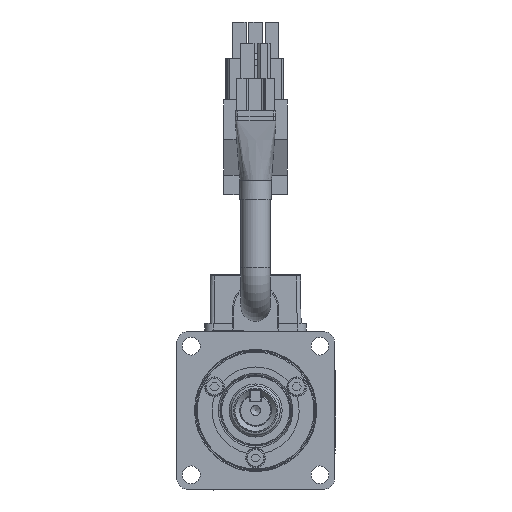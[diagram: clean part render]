
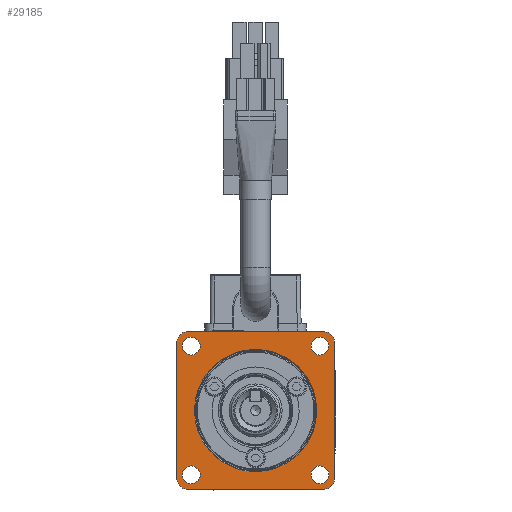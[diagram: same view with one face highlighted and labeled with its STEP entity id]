
A CAD part, left-side view. The second image highlights one B-rep face of the part: STEP entity #29185.
In plain terms, the highlighted planar face has unit normal (-1, 0, 0) as drawn and (0, -1, 0) by its records, which use the part's own axes.
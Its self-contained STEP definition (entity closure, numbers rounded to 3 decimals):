
#1846=CIRCLE('',#31225,2.25);
#1851=CIRCLE('',#31232,2.25);
#1856=CIRCLE('',#31239,2.25);
#1861=CIRCLE('',#31246,2.25);
#1874=CIRCLE('',#31285,3.);
#1875=CIRCLE('',#31287,3.);
#1876=CIRCLE('',#31289,3.);
#1877=CIRCLE('',#31291,3.);
#1878=CIRCLE('',#31293,15.45);
#3416=ORIENTED_EDGE('',*,*,#11169,.T.);
#3417=ORIENTED_EDGE('',*,*,#11167,.F.);
#3418=ORIENTED_EDGE('',*,*,#11144,.T.);
#3419=ORIENTED_EDGE('',*,*,#11166,.F.);
#3420=ORIENTED_EDGE('',*,*,#11153,.T.);
#3421=ORIENTED_EDGE('',*,*,#11165,.F.);
#3422=ORIENTED_EDGE('',*,*,#11162,.F.);
#3423=ORIENTED_EDGE('',*,*,#11168,.F.);
#3424=ORIENTED_EDGE('',*,*,#11123,.T.);
#3425=ORIENTED_EDGE('',*,*,#11103,.F.);
#3426=ORIENTED_EDGE('',*,*,#11089,.F.);
#3427=ORIENTED_EDGE('',*,*,#11096,.F.);
#3428=ORIENTED_EDGE('',*,*,#11110,.F.);
#11089=EDGE_CURVE('',#15083,#15083,#1846,.F.);
#11096=EDGE_CURVE('',#15089,#15089,#1851,.F.);
#11103=EDGE_CURVE('',#15095,#15095,#1856,.F.);
#11110=EDGE_CURVE('',#15101,#15101,#1861,.F.);
#11123=EDGE_CURVE('',#15108,#15107,#17741,.T.);
#11144=EDGE_CURVE('',#15122,#15121,#17754,.T.);
#11153=EDGE_CURVE('',#15124,#15123,#17763,.T.);
#11162=EDGE_CURVE('',#15125,#15126,#17772,.T.);
#11165=EDGE_CURVE('',#15126,#15123,#1874,.F.);
#11166=EDGE_CURVE('',#15124,#15121,#1875,.F.);
#11167=EDGE_CURVE('',#15122,#15107,#1876,.F.);
#11168=EDGE_CURVE('',#15108,#15125,#1877,.F.);
#11169=EDGE_CURVE('',#15127,#15127,#1878,.F.);
#15083=VERTEX_POINT('',#44218);
#15089=VERTEX_POINT('',#44233);
#15095=VERTEX_POINT('',#44248);
#15101=VERTEX_POINT('',#44263);
#15107=VERTEX_POINT('',#44286);
#15108=VERTEX_POINT('',#44288);
#15121=VERTEX_POINT('',#44326);
#15122=VERTEX_POINT('',#44328);
#15123=VERTEX_POINT('',#44343);
#15124=VERTEX_POINT('',#44345);
#15125=VERTEX_POINT('',#44361);
#15126=VERTEX_POINT('',#44363);
#15127=VERTEX_POINT('',#44378);
#17741=LINE('',#44287,#20601);
#17754=LINE('',#44327,#20614);
#17763=LINE('',#44344,#20623);
#17772=LINE('',#44362,#20632);
#20601=VECTOR('',#34470,1000.);
#20614=VECTOR('',#34509,1000.);
#20623=VECTOR('',#34530,1000.);
#20632=VECTOR('',#34553,1000.);
#23637=EDGE_LOOP('',(#3416));
#23638=EDGE_LOOP('',(#3417,#3418,#3419,#3420,#3421,#3422,#3423,#3424));
#23639=EDGE_LOOP('',(#3425));
#23640=EDGE_LOOP('',(#3426));
#23641=EDGE_LOOP('',(#3427));
#23642=EDGE_LOOP('',(#3428));
#25903=FACE_BOUND('',#23637,.T.);
#25904=FACE_BOUND('',#23638,.T.);
#25905=FACE_BOUND('',#23639,.T.);
#25906=FACE_BOUND('',#23640,.T.);
#25907=FACE_BOUND('',#23641,.T.);
#25908=FACE_BOUND('',#23642,.T.);
#27963=PLANE('',#31292);
#29185=ADVANCED_FACE('',(#25903,#25904,#25905,#25906,#25907,#25908),#27963,
 .T.);
#31225=AXIS2_PLACEMENT_3D('',#44217,#34394,#34395);
#31232=AXIS2_PLACEMENT_3D('',#44232,#34410,#34411);
#31239=AXIS2_PLACEMENT_3D('',#44247,#34426,#34427);
#31246=AXIS2_PLACEMENT_3D('',#44262,#34442,#34443);
#31285=AXIS2_PLACEMENT_3D('',#44369,#34562,#34563);
#31287=AXIS2_PLACEMENT_3D('',#44371,#34566,#34567);
#31289=AXIS2_PLACEMENT_3D('',#44373,#34570,#34571);
#31291=AXIS2_PLACEMENT_3D('',#44375,#34574,#34575);
#31292=AXIS2_PLACEMENT_3D('',#44376,#34576,#34577);
#31293=AXIS2_PLACEMENT_3D('',#44377,#34578,#34579);
#34394=DIRECTION('',(0.,1.,0.));
#34395=DIRECTION('',(0.,0.,1.));
#34410=DIRECTION('',(0.,1.,0.));
#34411=DIRECTION('',(0.,0.,1.));
#34426=DIRECTION('',(0.,1.,0.));
#34427=DIRECTION('',(0.,0.,1.));
#34442=DIRECTION('',(0.,1.,0.));
#34443=DIRECTION('',(0.,0.,1.));
#34470=DIRECTION('',(0.,0.,1.));
#34509=DIRECTION('',(-1.,0.,0.));
#34530=DIRECTION('',(0.,0.,-1.));
#34553=DIRECTION('',(-1.,0.,0.));
#34562=DIRECTION('',(0.,-1.,0.));
#34563=DIRECTION('',(0.,0.,-1.));
#34566=DIRECTION('',(0.,-1.,0.));
#34567=DIRECTION('',(0.,0.,-1.));
#34570=DIRECTION('',(0.,-1.,0.));
#34571=DIRECTION('',(0.,0.,-1.));
#34574=DIRECTION('',(0.,-1.,0.));
#34575=DIRECTION('',(0.,0.,-1.));
#34576=DIRECTION('',(0.,-1.,0.));
#34577=DIRECTION('',(0.,0.,-1.));
#34578=DIRECTION('',(0.,-1.,0.));
#34579=DIRECTION('',(0.,0.,-1.));
#44217=CARTESIAN_POINT('',(16.263,0.5,-16.263));
#44218=CARTESIAN_POINT('',(16.263,0.5,-14.013));
#44232=CARTESIAN_POINT('',(-16.263,0.5,-16.263));
#44233=CARTESIAN_POINT('',(-16.263,0.5,-14.013));
#44247=CARTESIAN_POINT('',(16.263,0.5,16.263));
#44248=CARTESIAN_POINT('',(16.263,0.5,18.513));
#44262=CARTESIAN_POINT('',(-16.263,0.5,16.263));
#44263=CARTESIAN_POINT('',(-16.263,0.5,18.513));
#44286=CARTESIAN_POINT('',(20.,0.5,17.));
#44287=CARTESIAN_POINT('',(20.,0.5,-20.));
#44288=CARTESIAN_POINT('',(20.,0.5,-17.));
#44326=CARTESIAN_POINT('',(-17.,0.5,20.));
#44327=CARTESIAN_POINT('',(20.,0.5,20.));
#44328=CARTESIAN_POINT('',(17.,0.5,20.));
#44343=CARTESIAN_POINT('',(-20.,0.5,-17.));
#44344=CARTESIAN_POINT('',(-20.,0.5,20.));
#44345=CARTESIAN_POINT('',(-20.,0.5,17.));
#44361=CARTESIAN_POINT('',(17.,0.5,-20.));
#44362=CARTESIAN_POINT('',(-20.,0.5,-20.));
#44363=CARTESIAN_POINT('',(-17.,0.5,-20.));
#44369=CARTESIAN_POINT('',(-17.,0.5,-17.));
#44371=CARTESIAN_POINT('',(-17.,0.5,17.));
#44373=CARTESIAN_POINT('',(17.,0.5,17.));
#44375=CARTESIAN_POINT('',(17.,0.5,-17.));
#44376=CARTESIAN_POINT('',(0.,0.5,15.5));
#44377=CARTESIAN_POINT('',(0.,0.5,0.));
#44378=CARTESIAN_POINT('',(0.,0.5,-15.45));
